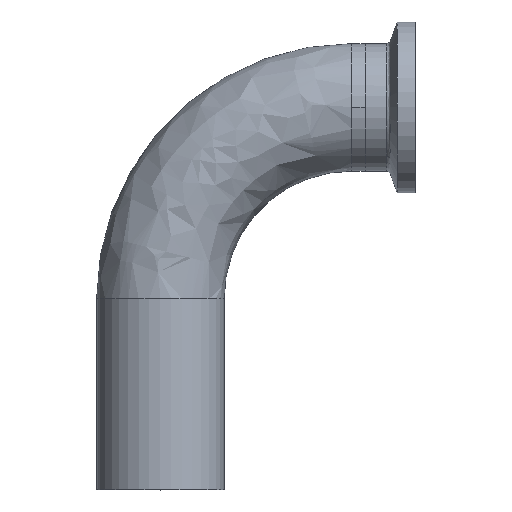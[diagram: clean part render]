
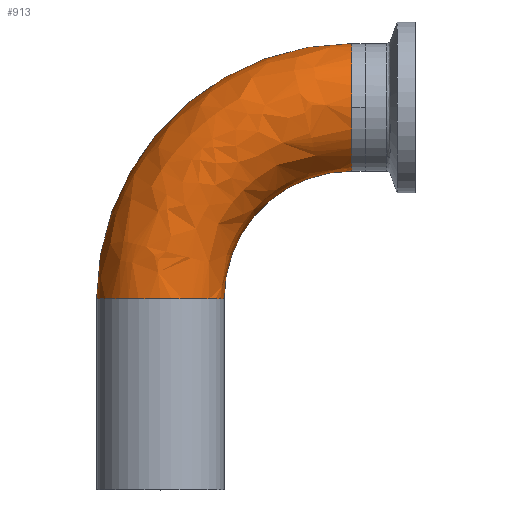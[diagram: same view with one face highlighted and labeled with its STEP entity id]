
A CAD part, top view. The second image highlights one B-rep face of the part: STEP entity #913.
In plain terms, the highlighted free-form (B-spline) face has degree [3, 3] with [4, 4] control points.
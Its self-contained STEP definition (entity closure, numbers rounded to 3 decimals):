
#34 = CARTESIAN_POINT ( 'NONE',  ( 38.1, 88.9, 0. ) ) ;
#65 = CARTESIAN_POINT ( 'NONE',  ( 8.342, 88.9, 0. ) ) ;
#84 = VERTEX_POINT ( 'NONE', #907 ) ;
#157 = AXIS2_PLACEMENT_3D ( 'NONE', #674, #875, #1293 ) ;
#170 = CARTESIAN_POINT ( 'NONE',  ( -12.7, 67.858, 0. ) ) ;
#190 = VERTEX_POINT ( 'NONE', #222 ) ;
#219 = CARTESIAN_POINT ( 'NONE',  ( -12.7, 38.1, 0. ) ) ;
#222 = CARTESIAN_POINT ( 'NONE',  ( 12.7, 38.1, 0. ) ) ;
#229 = CARTESIAN_POINT ( 'NONE',  ( 38.1, 88.9, 0. ) ) ;
#234 = AXIS2_PLACEMENT_3D ( 'NONE', #1138, #1192, #1239 ) ;
#236 = CARTESIAN_POINT ( 'NONE',  ( -12.7, 38.1, 25.4 ) ) ;
#246 = EDGE_CURVE ( 'NONE', #864, #190, #650, .T. ) ;
#258 = CARTESIAN_POINT ( 'NONE',  ( -12.7, 67.858, 25.4 ) ) ;
#260 = CARTESIAN_POINT ( 'NONE',  ( 8.342, 88.9, 25.4 ) ) ;
#288 = DIRECTION ( 'NONE',  ( 0., 1., 0. ) ) ;
#294 = CARTESIAN_POINT ( 'NONE',  ( 0., 38.1, 0. ) ) ;
#308 = EDGE_LOOP ( 'NONE', ( #684, #325, #910, #972, #862 ) ) ;
#309 = EDGE_CURVE ( 'NONE', #864, #900, #1108, .T. ) ;
#319 = AXIS2_PLACEMENT_3D ( 'NONE', #294, #288, #1250 ) ;
#325 = ORIENTED_EDGE ( 'NONE', *, *, #807, .T. ) ;
#330 = CARTESIAN_POINT ( 'NONE',  ( 38.1, 88.9, 25.4 ) ) ;
#354 = CARTESIAN_POINT ( 'NONE',  ( 12.7, 38.1, 25.4 ) ) ;
#359 = CARTESIAN_POINT ( 'NONE',  ( 12.7, 52.979, 25.4 ) ) ;
#375 = DIRECTION ( 'NONE',  ( 0., 1., 0. ) ) ;
#406 = CARTESIAN_POINT ( 'NONE',  ( 12.7, 52.979, 0. ) ) ;
#412 = CARTESIAN_POINT ( 'NONE',  ( 23.221, 63.5, 0. ) ) ;
#423 = CARTESIAN_POINT ( 'NONE',  ( 38.1, 63.5, 0. ) ) ;
#446 = CARTESIAN_POINT ( 'NONE',  ( -12.7, 38.1, 0. ) ) ;
#452 = VERTEX_POINT ( 'NONE', #713 ) ;
#542 = CARTESIAN_POINT ( 'NONE',  ( 38.1, 76.2, 0. ) ) ;
#627 = CIRCLE ( 'NONE', #157, 25.4 ) ;
#639 = CARTESIAN_POINT ( 'NONE',  ( 38.1, 38.1, 0. ) ) ;
#645 =( BOUNDED_SURFACE ( )  B_SPLINE_SURFACE ( 3, 3, ( 
 ( #219, #170, #65, #229 ),
 ( #236, #258, #260, #330 ),
 ( #354, #359, #675, #750 ),
 ( #789, #406, #412, #423 ) ),
 .UNSPECIFIED., .F., .F., .T. ) 
 B_SPLINE_SURFACE_WITH_KNOTS ( ( 4, 4 ),
 ( 4, 4 ),
 ( 0., 1. ),
 ( 0., 1. ),
 .UNSPECIFIED. ) 
 GEOMETRIC_REPRESENTATION_ITEM ( )  RATIONAL_B_SPLINE_SURFACE ( (
 ( 1., 0.805, 0.805, 1.),
 ( 0.333, 0.268, 0.268, 0.333),
 ( 0.333, 0.268, 0.268, 0.333),
 ( 1., 0.805, 0.805, 1.) ) ) 
 REPRESENTATION_ITEM ( '' )  SURFACE ( )  );
#650 = CIRCLE ( 'NONE', #319, 12.7 ) ;
#674 = CARTESIAN_POINT ( 'NONE',  ( 38.1, 38.1, 0. ) ) ;
#675 = CARTESIAN_POINT ( 'NONE',  ( 23.221, 63.5, 25.4 ) ) ;
#684 = ORIENTED_EDGE ( 'NONE', *, *, #246, .T. ) ;
#713 = CARTESIAN_POINT ( 'NONE',  ( 38.1, 63.5, 0. ) ) ;
#716 = CIRCLE ( 'NONE', #234, 12.7 ) ;
#750 = CARTESIAN_POINT ( 'NONE',  ( 38.1, 63.5, 25.4 ) ) ;
#753 = DIRECTION ( 'NONE',  ( -1., 0., 0. ) ) ;
#784 = AXIS2_PLACEMENT_3D ( 'NONE', #542, #1218, #375 ) ;
#789 = CARTESIAN_POINT ( 'NONE',  ( 12.7, 38.1, 0. ) ) ;
#801 = EDGE_CURVE ( 'NONE', #84, #900, #1208, .T. ) ;
#807 = EDGE_CURVE ( 'NONE', #190, #452, #627, .T. ) ;
#862 = ORIENTED_EDGE ( 'NONE', *, *, #309, .F. ) ;
#864 = VERTEX_POINT ( 'NONE', #446 ) ;
#875 = DIRECTION ( 'NONE',  ( 0., 0., -1. ) ) ;
#900 = VERTEX_POINT ( 'NONE', #34 ) ;
#907 = CARTESIAN_POINT ( 'NONE',  ( 38.1, 76.2, 12.7 ) ) ;
#910 = ORIENTED_EDGE ( 'NONE', *, *, #1072, .T. ) ;
#913 = ADVANCED_FACE ( 'NONE', ( #1145 ), #645, .T. ) ;
#972 = ORIENTED_EDGE ( 'NONE', *, *, #801, .T. ) ;
#1072 = EDGE_CURVE ( 'NONE', #452, #84, #716, .T. ) ;
#1108 = CIRCLE ( 'NONE', #1318, 50.8 ) ;
#1138 = CARTESIAN_POINT ( 'NONE',  ( 38.1, 76.2, 0. ) ) ;
#1145 = FACE_OUTER_BOUND ( 'NONE', #308, .T. ) ;
#1192 = DIRECTION ( 'NONE',  ( -1., 0., 0. ) ) ;
#1201 = DIRECTION ( 'NONE',  ( 0., 0., -1. ) ) ;
#1208 = CIRCLE ( 'NONE', #784, 12.7 ) ;
#1218 = DIRECTION ( 'NONE',  ( -1., 0., 0. ) ) ;
#1239 = DIRECTION ( 'NONE',  ( 0., 1., 0. ) ) ;
#1250 = DIRECTION ( 'NONE',  ( -1., 0., 0. ) ) ;
#1293 = DIRECTION ( 'NONE',  ( -1., 0., 0. ) ) ;
#1318 = AXIS2_PLACEMENT_3D ( 'NONE', #639, #1201, #753 ) ;
